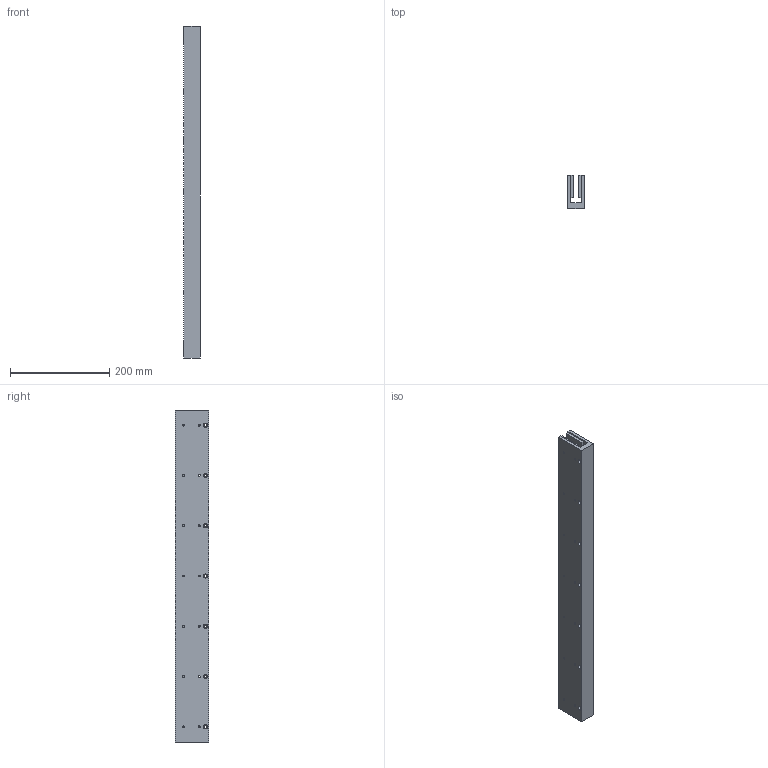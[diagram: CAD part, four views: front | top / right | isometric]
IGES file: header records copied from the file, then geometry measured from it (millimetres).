
Global section: file name: No Iges File Name specified; native system: Autodesk Inventor 2009; preprocessor: AutoDesk Inventor Iges Exporter R2009; author: je17857; date: 20091116.111515; units: inch
Bounding box: 34.29 x 67.31 x 670.56 mm (x, y, z)
Volume: 1001995.5 mm3; surface area: 253575.4 mm2
Topology: 1 solids, 1 shells, 350 faces, 846 edges, 564 vertices
Faces by surface type: plane 238, bspline 112
